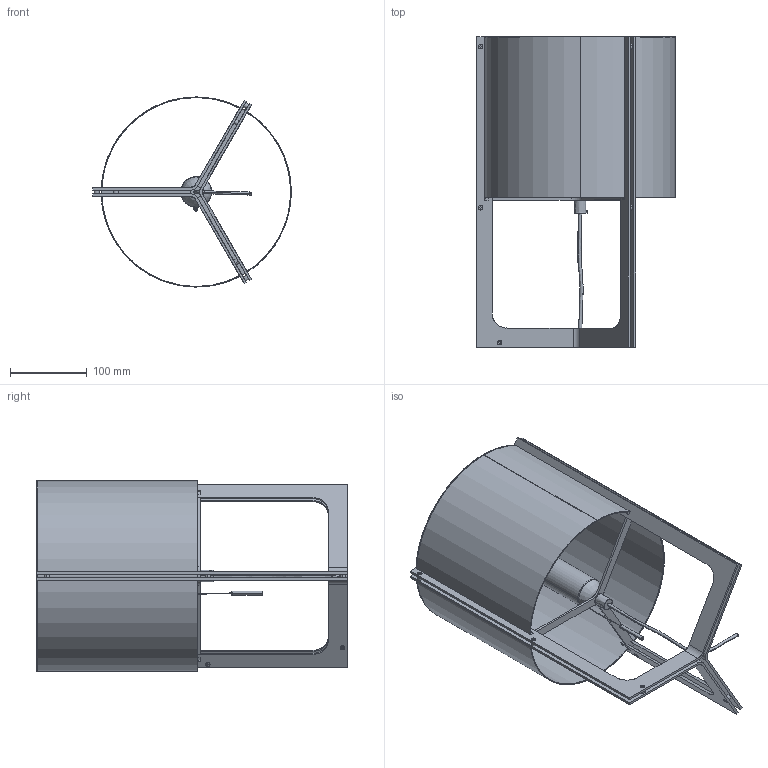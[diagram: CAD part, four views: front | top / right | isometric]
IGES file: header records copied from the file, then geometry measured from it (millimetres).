
Start section: SolidWorks IGES file using analytic representation for surfaces
Global section: file name: C:\Users\libre2.DOMINIO\Desktop\CARPYEN\3D\GABRIEL TEIXIDO\NIRVANA\nirvana_25\NIRVANA25_table.IGS; native system: SolidWorks 2014; preprocessor: SolidWorks 2014; author: libre2; date: 160314.105226; units: millimetre
Bounding box: 259 x 405 x 248 mm (x, y, z)
Surface area: 487767.2 mm2 (no closed solid volume)
Topology: 0 solids, 0 shells, 354 faces, 5244 edges, 5244 vertices
Faces by surface type: bspline 220, revolution 134
